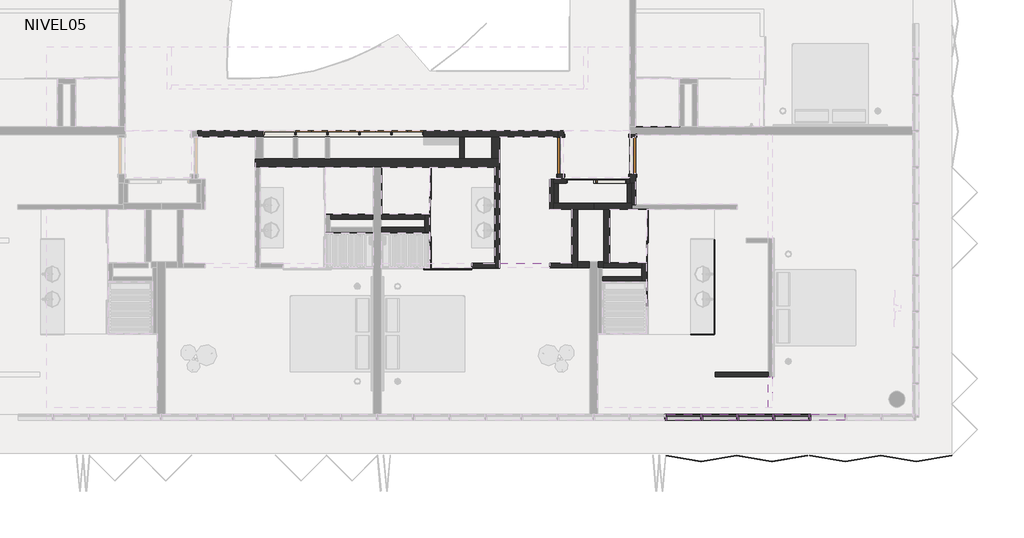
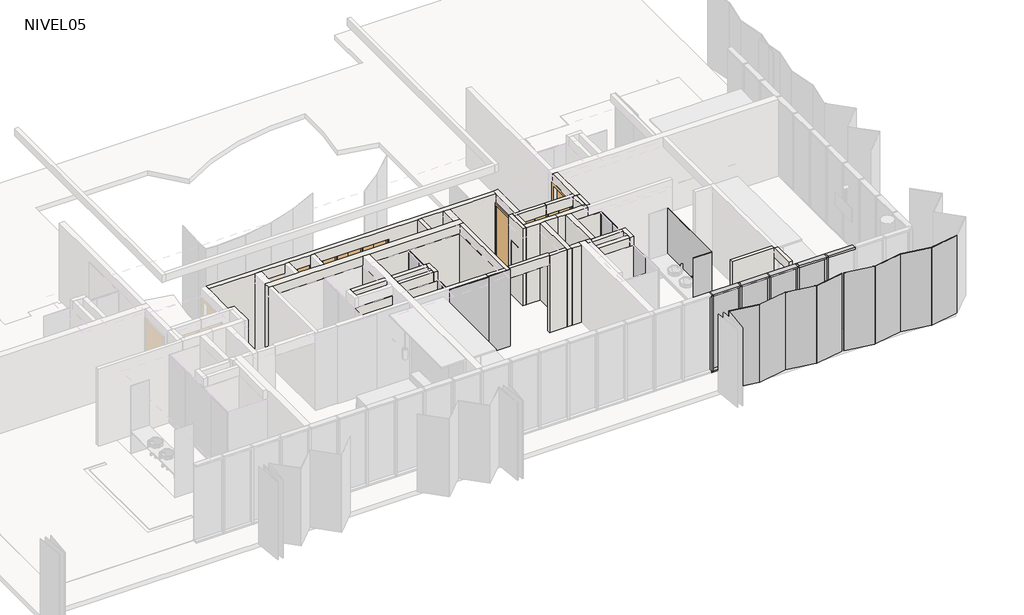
# One storey, part 3 of 8: 44 walls, 14 members, 14 plates, 8 doors.
"""IFC4 building model written with IfcOpenShell, lengths in millimetres."""

from ifc_helpers import new_model, si_unit, frame, origin, place, context, project, spatial, polyline, outline, extrude, faceted_brep, transform, mapped, element, save
from components import m_single_flush_910x_224_a4f79d59, m_single_flush_910x_224_d199ccfa, puerta_closet_shaft_75_x_232cm_9b8c6cb1, puerta_closet_shaft_75_x_232cm_f7ce9964, puerta_closet_shaft_80_x_232cm_003f94e8, rectangular_mullion_50_x_150mm_324a6438, rectangular_mullion_50_x_150mm_33c2bde1, folding_hd_folding_hd_10_b2af082d, panel_corredera_cr_panel_corredera_e3ae9a5b, panel_corredera_cr_panel_corredera_0bc1c699, panel_corredera_cr_panel_corredera_7198288a, panel_corredera_cr_panel_corredera_8db39db7, system_panel_cr_shower_d400fda2, system_panel_cr_shower_91adf229, system_panel_cr_shower_4114597a, system_panel_cr_shower_ad642826, system_panel_cr_shower_33531463, system_panel_glazed_6ccc6dc1

model = new_model("IFC4")

# Units and contexts
model_context = context("Model", 3, world=origin())
ifc_project = project(units=[si_unit("LENGTHUNIT", "METRE", prefix="MILLI")], contexts=[model_context])

# Site, building, storey
site = spatial("IfcSite", under=ifc_project)
building = spatial("IfcBuilding", under=site)
storey = spatial("IfcBuildingStorey", under=building, Name="NIVEL05", Elevation=10660.0)

# Doors
placement = place(None, origin())
m_single_flush_910x_224_shape = m_single_flush_910x_224_a4f79d59(model_context)
element("IfcDoor", 1, ObjectType="M_Single-Flush : 910x 224", at=placement, inside=storey, context=model_context, shape_type="MappedRepresentation", body=[
    mapped(m_single_flush_910x_224_shape, transform((-2608.5934748, -883.5860759, 10660.0), x_axis=(0.0, 1.0, 0.0), y_axis=(-1.0, 0.0, 0.0), z_axis=(0.0, 0.0, 1.0))),
])
m_single_flush_910x_224_2_shape = m_single_flush_910x_224_d199ccfa(model_context)
element("IfcDoor", 2, ObjectType="M_Single-Flush : 910x 224", at=placement, inside=storey, context=model_context, shape_type="MappedRepresentation", body=[
    mapped(m_single_flush_910x_224_2_shape, transform((-798.5934748, -883.5860759, 10660.0), x_axis=(0.0, 1.0, 0.0), y_axis=(-1.0, 0.0, 0.0), z_axis=(0.0, 0.0, 1.0))),
])
puerta_closet_shaft_75_x_232cm_shape = puerta_closet_shaft_75_x_232cm_9b8c6cb1(model_context)
element("IfcDoor", 3, ObjectType="PUERTA CLOSET SHAFT : 75 x 232cm", at=placement, inside=storey, context=model_context, shape_type="MappedRepresentation", body=[
    mapped(puerta_closet_shaft_75_x_232cm_shape, transform((-947.061904, -1521.0860759, 10660.0), x_axis=(1.0, 0.0, 0.0), y_axis=(0.0, 1.0, 0.0), z_axis=(0.0, 0.0, 1.0))),
])
puerta_closet_shaft_75_x_232cm_2_shape = puerta_closet_shaft_75_x_232cm_f7ce9964(model_context)
element("IfcDoor", 4, ObjectType="PUERTA CLOSET SHAFT : 75 x 232cm", at=placement, inside=storey, context=model_context, shape_type="MappedRepresentation", body=[
    mapped(puerta_closet_shaft_75_x_232cm_2_shape, transform((-2480.1250457, -1521.0860759, 10660.0), x_axis=(-1.0, 0.0, 0.0), y_axis=(0.0, -1.0, 0.0), z_axis=(0.0, 0.0, 1.0))),
])
puerta_closet_shaft_80_x_232cm_shape = puerta_closet_shaft_80_x_232cm_003f94e8(model_context)
element("IfcDoor", 5, ObjectType="PUERTA CLOSET SHAFT : 80 x 232cm", at=placement, inside=storey, context=model_context, shape_type="MappedRepresentation", body=[
    mapped(puerta_closet_shaft_80_x_232cm_shape, transform((-6892.061904, -341.0860759, 10660.0), x_axis=(1.0, 0.0, 0.0), y_axis=(0.0, 1.0, 0.0), z_axis=(0.0, 0.0, 1.0))),
])
element("IfcDoor", 6, ObjectType="PUERTA CLOSET SHAFT : 80 x 232cm", at=placement, inside=storey, context=model_context, shape_type="MappedRepresentation", body=[
    mapped(puerta_closet_shaft_80_x_232cm_shape, transform((-7692.061904, -341.0860759, 10660.0), x_axis=(1.0, 0.0, 0.0), y_axis=(0.0, 1.0, 0.0), z_axis=(0.0, 0.0, 1.0))),
])
element("IfcDoor", 7, ObjectType="PUERTA CLOSET SHAFT : 80 x 232cm", at=placement, inside=storey, context=model_context, shape_type="MappedRepresentation", body=[
    mapped(puerta_closet_shaft_80_x_232cm_shape, transform((-6092.061904, -341.0860759, 10660.0), x_axis=(1.0, 0.0, 0.0), y_axis=(0.0, 1.0, 0.0), z_axis=(0.0, 0.0, 1.0))),
])
element("IfcDoor", 8, ObjectType="PUERTA CLOSET SHAFT : 80 x 232cm", at=placement, inside=storey, context=model_context, shape_type="MappedRepresentation", body=[
    mapped(puerta_closet_shaft_80_x_232cm_shape, transform((-5292.061904, -341.0860759, 10660.0), x_axis=(1.0, 0.0, 0.0), y_axis=(0.0, 1.0, 0.0), z_axis=(0.0, 0.0, 1.0))),
])

# Members
rectangular_mullion_50_x_150mm_shape = rectangular_mullion_50_x_150mm_324a6438(model_context)
element("IfcMember", 9, ObjectType="Rectangular Mullion : 50 x 150mm", at=placement, inside=storey, context=model_context, shape_type="MappedRepresentation", body=[
    mapped(rectangular_mullion_50_x_150mm_shape, transform((1841.4065252, -7416.0860759, 13210.0), x_axis=(0.0, 0.0, 1.0), y_axis=(0.0, 1.0, 0.0), z_axis=(-1.0, 0.0, 0.0))),
])
element("IfcMember", 10, ObjectType="Rectangular Mullion : 50 x 150mm", at=placement, inside=storey, context=model_context, shape_type="MappedRepresentation", body=[
    mapped(rectangular_mullion_50_x_150mm_shape, transform((941.4065252, -7416.0860759, 13210.0), x_axis=(0.0, 0.0, 1.0), y_axis=(0.0, 1.0, 0.0), z_axis=(-1.0, 0.0, 0.0))),
])
element("IfcMember", 11, ObjectType="Rectangular Mullion : 50 x 150mm", at=placement, inside=storey, context=model_context, shape_type="MappedRepresentation", body=[
    mapped(rectangular_mullion_50_x_150mm_shape, transform((41.4065252, -7416.0860759, 13210.0), x_axis=(0.0, 0.0, 1.0), y_axis=(0.0, 1.0, 0.0), z_axis=(-1.0, 0.0, 0.0))),
])
element("IfcMember", 12, ObjectType="Rectangular Mullion : 50 x 150mm", at=placement, inside=storey, context=model_context, shape_type="MappedRepresentation", body=[
    mapped(rectangular_mullion_50_x_150mm_shape, transform((3641.4065252, -7416.0860759, 13210.0), x_axis=(0.0, 0.0, 1.0), y_axis=(0.0, 1.0, 0.0), z_axis=(-1.0, 0.0, 0.0))),
])
element("IfcMember", 13, ObjectType="Rectangular Mullion : 50 x 150mm", at=placement, inside=storey, context=model_context, shape_type="MappedRepresentation", body=[
    mapped(rectangular_mullion_50_x_150mm_shape, transform((2741.4065252, -7416.0860759, 13210.0), x_axis=(0.0, 0.0, 1.0), y_axis=(0.0, 1.0, 0.0), z_axis=(-1.0, 0.0, 0.0))),
])
element("IfcMember", 14, ObjectType="Rectangular Mullion : 50 x 150mm", at=placement, inside=storey, context=model_context, shape_type="MappedRepresentation", body=[
    mapped(rectangular_mullion_50_x_150mm_shape, transform((1791.4065252, -7416.0860759, 10640.0), x_axis=(0.0, 0.0, -1.0), y_axis=(0.0, 1.0, 0.0), z_axis=(1.0, 0.0, 0.0))),
])
element("IfcMember", 15, ObjectType="Rectangular Mullion : 50 x 150mm", at=placement, inside=storey, context=model_context, shape_type="MappedRepresentation", body=[
    mapped(rectangular_mullion_50_x_150mm_shape, transform((891.4065252, -7416.0860759, 10640.0), x_axis=(0.0, 0.0, -1.0), y_axis=(0.0, 1.0, 0.0), z_axis=(1.0, 0.0, 0.0))),
])
element("IfcMember", 16, ObjectType="Rectangular Mullion : 50 x 150mm", at=placement, inside=storey, context=model_context, shape_type="MappedRepresentation", body=[
    mapped(rectangular_mullion_50_x_150mm_shape, transform((3591.4065252, -7416.0860759, 10640.0), x_axis=(0.0, 0.0, -1.0), y_axis=(0.0, 1.0, 0.0), z_axis=(1.0, 0.0, 0.0))),
])
element("IfcMember", 17, ObjectType="Rectangular Mullion : 50 x 150mm", at=placement, inside=storey, context=model_context, shape_type="MappedRepresentation", body=[
    mapped(rectangular_mullion_50_x_150mm_shape, transform((2691.4065252, -7416.0860759, 10640.0), x_axis=(0.0, 0.0, -1.0), y_axis=(0.0, 1.0, 0.0), z_axis=(1.0, 0.0, 0.0))),
])
rectangular_mullion_50_x_150mm_2_shape = rectangular_mullion_50_x_150mm_33c2bde1(model_context)
element("IfcMember", 18, ObjectType="Rectangular Mullion : 50 x 150mm", at=placement, inside=storey, context=model_context, shape_type="MappedRepresentation", body=[
    mapped(rectangular_mullion_50_x_150mm_2_shape, transform((1816.4065252, -7416.0860759, 10640.0), x_axis=(-1.0, 0.0, 0.0), y_axis=(0.0, 1.0, 0.0), z_axis=(0.0, 0.0, -1.0))),
])
element("IfcMember", 19, ObjectType="Rectangular Mullion : 50 x 150mm", at=placement, inside=storey, context=model_context, shape_type="MappedRepresentation", body=[
    mapped(rectangular_mullion_50_x_150mm_2_shape, transform((916.4065252, -7416.0860759, 10640.0), x_axis=(-1.0, 0.0, 0.0), y_axis=(0.0, 1.0, 0.0), z_axis=(0.0, 0.0, -1.0))),
])
element("IfcMember", 20, ObjectType="Rectangular Mullion : 50 x 150mm", at=placement, inside=storey, context=model_context, shape_type="MappedRepresentation", body=[
    mapped(rectangular_mullion_50_x_150mm_2_shape, transform((16.4065252, -7416.0860759, 10640.0), x_axis=(-1.0, 0.0, 0.0), y_axis=(0.0, 1.0, 0.0), z_axis=(0.0, 0.0, -1.0))),
])
element("IfcMember", 21, ObjectType="Rectangular Mullion : 50 x 150mm", at=placement, inside=storey, context=model_context, shape_type="MappedRepresentation", body=[
    mapped(rectangular_mullion_50_x_150mm_2_shape, transform((2716.4065252, -7416.0860759, 10640.0), x_axis=(-1.0, 0.0, 0.0), y_axis=(0.0, 1.0, 0.0), z_axis=(0.0, 0.0, -1.0))),
])
element("IfcMember", 22, ObjectType="Rectangular Mullion : 50 x 150mm", at=placement, inside=storey, context=model_context, shape_type="MappedRepresentation", body=[
    mapped(rectangular_mullion_50_x_150mm_2_shape, transform((3616.4065252, -7416.0860759, 10640.0), x_axis=(-1.0, 0.0, 0.0), y_axis=(0.0, 1.0, 0.0), z_axis=(0.0, 0.0, -1.0))),
])

# Plates
folding_hd_folding_hd_10_shape = folding_hd_folding_hd_10_b2af082d(model_context)
element("IfcPlate", 23, ObjectType="FOLDING HD : FOLDING HD 10", at=placement, inside=storey, context=model_context, shape_type="MappedRepresentation", body=[
    mapped(folding_hd_folding_hd_10_shape, transform((3591.4065252, -8366.0860759, 10640.0), x_axis=(-1.0, 0.0, 0.0), y_axis=(0.0, -1.0, 0.0), z_axis=(0.0, 0.0, 1.0))),
])
panel_corredera_cr_panel_corredera_shape = panel_corredera_cr_panel_corredera_e3ae9a5b(model_context)
element("IfcPlate", 24, ObjectType="PANEL CORREDERA : CR_PANEL CORREDERA", at=placement, inside=storey, context=model_context, shape_type="MappedRepresentation", body=[
    mapped(panel_corredera_cr_panel_corredera_shape, transform((-453.5434748, -2560.8259695, 10660.0), x_axis=(0.0, -1.0, 0.0), y_axis=(1.0, 0.0, 0.0), z_axis=(0.0, 0.0, 1.0))),
])
panel_corredera_cr_panel_corredera_2_shape = panel_corredera_cr_panel_corredera_0bc1c699(model_context)
element("IfcPlate", 25, ObjectType="PANEL CORREDERA : CR_PANEL CORREDERA", at=placement, inside=storey, context=model_context, shape_type="MappedRepresentation", body=[
    mapped(panel_corredera_cr_panel_corredera_2_shape, transform((-5883.5921504, -3371.0862189, 10660.0), x_axis=(0.0, 1.0, 0.0), y_axis=(-1.0, 0.0, 0.0), z_axis=(0.0, 0.0, 1.0))),
])
panel_corredera_cr_panel_corredera_3_shape = panel_corredera_cr_panel_corredera_7198288a(model_context)
element("IfcPlate", 26, ObjectType="PANEL CORREDERA : CR_PANEL CORREDERA", at=placement, inside=storey, context=model_context, shape_type="MappedRepresentation", body=[
    mapped(panel_corredera_cr_panel_corredera_3_shape, transform((-5883.5921504, -1491.0860759, 10660.0), x_axis=(0.0, -1.0, 0.0), y_axis=(1.0, 0.0, 0.0), z_axis=(0.0, 0.0, 1.0))),
])
panel_corredera_cr_panel_corredera_4_shape = panel_corredera_cr_panel_corredera_8db39db7(model_context)
element("IfcPlate", 27, ObjectType="PANEL CORREDERA : CR_PANEL CORREDERA", at=placement, inside=storey, context=model_context, shape_type="MappedRepresentation", body=[
    mapped(panel_corredera_cr_panel_corredera_4_shape, transform((-5353.5934748, -3686.0862189, 10660.0), x_axis=(-1.0, 0.0, 0.0), y_axis=(0.0, -1.0, 0.0), z_axis=(0.0, 0.0, 1.0))),
])
system_panel_cr_shower_shape = system_panel_cr_shower_d400fda2(model_context)
element("IfcPlate", 28, ObjectType="System Panel : CR-SHOWER", at=placement, inside=storey, context=model_context, shape_type="MappedRepresentation", body=[
    mapped(system_panel_cr_shower_shape, transform((-4478.5934748, -3686.0862189, 10660.0), x_axis=(1.0, 0.0, 0.0), y_axis=(0.0, 1.0, 0.0), z_axis=(0.0, 0.0, 1.0))),
])
system_panel_cr_shower_2_shape = system_panel_cr_shower_91adf229(model_context)
element("IfcPlate", 29, ObjectType="System Panel : CR-SHOWER", at=placement, inside=storey, context=model_context, shape_type="MappedRepresentation", body=[
    mapped(system_panel_cr_shower_2_shape, transform((1226.4065252, -4164.8462541, 10660.0), x_axis=(0.0, 1.0, 0.0), y_axis=(-1.0, 0.0, 0.0), z_axis=(0.0, 0.0, 1.0))),
])
system_panel_cr_shower_3_shape = system_panel_cr_shower_4114597a(model_context)
element("IfcPlate", 30, ObjectType="System Panel : CR-SHOWER", at=placement, inside=storey, context=model_context, shape_type="MappedRepresentation", body=[
    mapped(system_panel_cr_shower_3_shape, transform((936.4065252, -5348.5862189, 10660.0), x_axis=(1.0, 0.0, 0.0), y_axis=(0.0, 1.0, 0.0), z_axis=(0.0, 0.0, 1.0))),
])
system_panel_cr_shower_4_shape = system_panel_cr_shower_ad642826(model_context)
element("IfcPlate", 31, ObjectType="System Panel : CR-SHOWER", at=placement, inside=storey, context=model_context, shape_type="MappedRepresentation", body=[
    mapped(system_panel_cr_shower_4_shape, transform((-453.5434748, -3776.2845441, 10660.0), x_axis=(0.0, 1.0, 0.0), y_axis=(-1.0, 0.0, 0.0), z_axis=(0.0, 0.0, 1.0))),
])
system_panel_cr_shower_5_shape = system_panel_cr_shower_33531463(model_context)
element("IfcPlate", 32, ObjectType="System Panel : CR-SHOWER", at=placement, inside=storey, context=model_context, shape_type="MappedRepresentation", body=[
    mapped(system_panel_cr_shower_5_shape, transform((-5883.5921504, -2436.0861474, 10660.0), x_axis=(0.0, 1.0, 0.0), y_axis=(-1.0, 0.0, 0.0), z_axis=(0.0, 0.0, 1.0))),
])
system_panel_glazed_shape = system_panel_glazed_6ccc6dc1(model_context)
element("IfcPlate", 33, ObjectType="System Panel : Glazed", at=placement, inside=storey, context=model_context, shape_type="MappedRepresentation", body=[
    mapped(system_panel_glazed_shape, transform((1366.4065252, -7416.0860759, 10690.0), x_axis=(-1.0, 0.0, 0.0), y_axis=(0.0, -1.0, 0.0), z_axis=(0.0, 0.0, 1.0))),
])
element("IfcPlate", 34, ObjectType="System Panel : Glazed", at=placement, inside=storey, context=model_context, shape_type="MappedRepresentation", body=[
    mapped(system_panel_glazed_shape, transform((466.4065252, -7416.0860759, 10690.0), x_axis=(-1.0, 0.0, 0.0), y_axis=(0.0, -1.0, 0.0), z_axis=(0.0, 0.0, 1.0))),
])
element("IfcPlate", 35, ObjectType="System Panel : Glazed", at=placement, inside=storey, context=model_context, shape_type="MappedRepresentation", body=[
    mapped(system_panel_glazed_shape, transform((2266.4065252, -7416.0860759, 10690.0), x_axis=(-1.0, 0.0, 0.0), y_axis=(0.0, -1.0, 0.0), z_axis=(0.0, 0.0, 1.0))),
])
element("IfcPlate", 36, ObjectType="System Panel : Glazed", at=placement, inside=storey, context=model_context, shape_type="MappedRepresentation", body=[
    mapped(system_panel_glazed_shape, transform((3166.4065252, -7416.0860759, 10690.0), x_axis=(-1.0, 0.0, 0.0), y_axis=(0.0, -1.0, 0.0), z_axis=(0.0, 0.0, 1.0))),
])

# Walls
element("IfcWall", 37, ObjectType="SCV.TI.A.110.090.143.47.1", at=placement, inside=storey, context=model_context, shape_type="SweptSolid", body=[
    extrude(outline(polyline([(-2333.5934748, -3681.0862189), (-2883.5934748, -3681.0862189), (-2883.5934748, -3571.0862189), (-2333.5934748, -3571.0862189), (-2333.5934748, -3681.0862189)])), frame((0.0, 0.0, 10660.0), z_axis=(0.0, 0.0, 1.0), x_axis=(1.0, 0.0, 0.0)), (0.0, 0.0, 1.0), 2550.0),
])
element("IfcWall", 38, ObjectType="SCV.TI.A.110.090.143.47.1", at=placement, inside=storey, context=model_context, shape_type="Brep", body=[
    faceted_brep([(-1778.029983, -1576.0860759, 13210.0), (-2773.5934748, -1576.0860759, 13210.0), (-2773.5934748, -1576.0860759, 10660.0), (-2463.5934748, -1576.0860759, 10660.0), (-2463.5934748, -1576.0860759, 12900.0), (-1778.029983, -1576.0860759, 12900.0), (-2773.5934748, -1466.0860759, 13210.0), (-2683.5934748, -1466.0860759, 13210.0), (-2533.5934748, -1466.0860759, 13210.0), (-1778.029983, -1466.0860759, 13210.0), (-1778.029983, -1466.0860759, 12900.0), (-2463.5934748, -1466.0860759, 12900.0), (-2463.5934748, -1466.0860759, 10660.0), (-2533.5934748, -1466.0860759, 10660.0), (-2683.5934748, -1466.0860759, 10660.0), (-2773.5934748, -1466.0860759, 10660.0)], [[[0, 1, 2, 3, 4, 5]], [[6, 7, 8, 9, 10, 11, 12, 13, 14, 15]], [[2, 15, 14, 13, 12, 3]], [[9, 0, 5, 10]], [[1, 0, 9, 8, 7, 6]], [[4, 11, 10, 5]], [[11, 4, 3, 12]], [[2, 1, 6, 15]]]),
])
element("IfcWall", 39, ObjectType="SCV.TI.A.150.120.212.47.1", at=placement, inside=storey, context=model_context, shape_type="Brep", body=[
    faceted_brep([(-2683.5934748, -1466.0860759, 13210.0), (-2683.5934748, -416.0860759, 13210.0), (-2683.5934748, -266.0860759, 13210.0), (-2683.5934748, -266.0860759, 10660.0), (-2683.5934748, -426.0860759, 10660.0), (-2683.5934748, -426.0860759, 12860.0), (-2683.5934748, -1341.0860759, 12860.0), (-2683.5934748, -1341.0860759, 10660.0), (-2683.5934748, -1466.0860759, 10660.0), (-2533.5934748, -266.0860759, 13210.0), (-2533.5934748, -1466.0860759, 13210.0), (-2533.5934748, -1466.0860759, 10660.0), (-2533.5934748, -1341.0860759, 10660.0), (-2533.5934748, -1341.0860759, 12860.0), (-2533.5934748, -426.0860759, 12860.0), (-2533.5934748, -426.0860759, 10660.0), (-2533.5934748, -266.0860759, 10660.0)], [[[0, 1, 2, 3, 4, 5, 6, 7, 8]], [[9, 10, 11, 12, 13, 14, 15, 16]], [[3, 16, 15, 4]], [[11, 8, 7, 12]], [[2, 1, 0, 10, 9]], [[5, 14, 13, 6]], [[6, 13, 12, 7]], [[14, 5, 4, 15]], [[3, 2, 9, 16]], [[0, 8, 11, 10]]]),
])
element("IfcWall", 40, ObjectType="SCV.TI.A.110.090.143.47.1", at=placement, inside=storey, context=model_context, shape_type="Brep", body=[
    faceted_brep([(-4243.5934748, -1166.0860759, 10640.0), (-4243.5934748, -3686.0862189, 10640.0), (-4243.5934748, -3686.0862189, 10660.0), (-4243.5934748, -3686.0862189, 13210.0), (-4243.5934748, -3576.0862189, 13210.0), (-4243.5934748, -1166.0860759, 13210.0), (-4133.5934748, -1166.0860759, 10640.0), (-4133.5934748, -1166.0860759, 13210.0), (-4133.5934748, -3686.0862189, 13210.0), (-4133.5934748, -3686.0862189, 12910.0), (-4133.5934748, -3686.0862189, 10640.0)], [[[0, 1, 2, 3, 4, 5]], [[6, 7, 8, 9, 10]], [[1, 0, 6, 10]], [[5, 4, 3, 8, 7]], [[1, 10, 9, 8, 3, 2]], [[0, 5, 7, 6]]]),
])
element("IfcWall", 41, ObjectType="SCV.TI.A.150.120.212.47.1", at=placement, inside=storey, context=model_context, shape_type="Brep", body=[
    faceted_brep([(-11683.5934748, -416.0860759, 10640.0), (-10233.5934748, -416.0860759, 10640.0), (-10033.5934748, -416.0860759, 10640.0), (-9283.5934748, -416.0860759, 10640.0), (-9173.5934748, -416.0860759, 10640.0), (-8483.5934748, -416.0860759, 10640.0), (-8373.5934748, -416.0860759, 10640.0), (-5133.5934748, -416.0860759, 10640.0), (-5013.5934748, -416.0860759, 10640.0), (-4333.5934748, -416.0860759, 10640.0), (-4133.5934748, -416.0860759, 10640.0), (-2683.5934748, -416.0860759, 10640.0), (-2683.5934748, -416.0860759, 13210.0), (-4133.5934748, -416.0860759, 13210.0), (-4333.5934748, -416.0860759, 13210.0), (-5013.5934748, -416.0860759, 13210.0), (-5133.5934748, -416.0860759, 13210.0), (-8373.5934748, -416.0860759, 13210.0), (-8483.5934748, -416.0860759, 13210.0), (-9173.5934748, -416.0860759, 13210.0), (-9283.5934748, -416.0860759, 13210.0), (-10033.5934748, -416.0860759, 13210.0), (-10233.5934748, -416.0860759, 13210.0), (-11683.5934748, -416.0860759, 13210.0), (-6033.5934748, -416.0860759, 10660.0), (-10033.5934748, -416.0860759, 10660.0), (-10033.5934748, -416.0860759, 12880.0), (-6033.5934748, -416.0860759, 12880.0), (-2683.5934748, -266.0860759, 10640.0), (-11683.5934748, -266.0860759, 10640.0), (-11683.5934748, -266.0860759, 10660.0), (-11683.5934748, -266.0860759, 13210.0), (-2683.5934748, -266.0860759, 13210.0), (-2683.5934748, -266.0860759, 10660.0), (-6033.5934748, -266.0860759, 12880.0), (-10033.5934748, -266.0860759, 12880.0), (-10033.5934748, -266.0860759, 10660.0), (-6033.5934748, -266.0860759, 10660.0)], [[[0, 1, 2, 3, 4, 5, 6, 7, 8, 9, 10, 11, 12, 13, 14, 15, 16, 17, 18, 19, 20, 21, 22, 23], [24, 25, 26, 27]], [[28, 29, 30, 31, 32, 33], [34, 35, 36, 37]], [[11, 10, 9, 8, 7, 6, 5, 4, 3, 2, 1, 0, 29, 28]], [[23, 22, 21, 20, 19, 18, 17, 16, 15, 14, 13, 12, 32, 31]], [[26, 35, 34, 27]], [[36, 25, 24, 37]], [[25, 36, 35, 26]], [[37, 24, 27, 34]], [[12, 11, 28, 33, 32]], [[0, 23, 31, 30, 29]]]),
])
element("IfcWall", 42, ObjectType="SCV.TI.A.150.120.212.47.1", at=placement, inside=storey, context=model_context, shape_type="Brep", body=[
    faceted_brep([(-2773.5934748, -2216.0860759, 10660.0), (-2333.5934748, -2216.0860759, 10660.0), (-2183.5934748, -2216.0860759, 10660.0), (-1783.5934748, -2216.0860759, 10660.0), (-1783.5934748, -2216.0860759, 13210.0), (-2183.5934748, -2216.0860759, 13210.0), (-2333.5934748, -2216.0860759, 13210.0), (-2773.5934748, -2216.0860759, 13210.0), (-2773.5934748, -2066.0860759, 10660.0), (-2773.5934748, -2066.0860759, 13210.0), (-1783.5934748, -2066.0860759, 13210.0), (-1783.5934748, -2066.0860759, 10660.0)], [[[0, 1, 2, 3, 4, 5, 6, 7]], [[8, 9, 10, 11]], [[3, 2, 1, 0, 8, 11]], [[4, 3, 11, 10]], [[7, 6, 5, 4, 10, 9]], [[0, 7, 9, 8]]]),
])
element("IfcWall", 43, ObjectType="SCV.TI.A.110.090.143.47.1", at=placement, inside=storey, context=model_context, shape_type="Brep", body=[
    faceted_brep([(-2883.5934748, -1466.0860759, 10640.0), (-2883.5934748, -2216.0860759, 10640.0), (-2883.5934748, -2216.0860759, 13210.0), (-2883.5934748, -1466.0860759, 13210.0), (-2773.5934748, -1466.0860759, 10640.0), (-2773.5934748, -1466.0860759, 10660.0), (-2773.5934748, -1466.0860759, 13210.0), (-2773.5934748, -1576.0860759, 13210.0), (-2773.5934748, -2066.0860759, 13210.0), (-2773.5934748, -2216.0860759, 13210.0), (-2773.5934748, -2216.0860759, 10660.0), (-2773.5934748, -2216.0860759, 10640.0)], [[[0, 1, 2, 3]], [[4, 5, 6, 7, 8, 9, 10, 11]], [[1, 0, 4, 11]], [[3, 2, 9, 8, 7, 6]], [[2, 1, 11, 10, 9]], [[0, 3, 6, 5, 4]]]),
])
element("IfcWall", 44, ObjectType="SCV.TI.A.120.120.122.46.2", at=placement, inside=storey, context=model_context, shape_type="SweptSolid", body=[
    extrude(outline(polyline([(-6003.6822103, -2796.0860759), (-7083.5934748, -2796.0860759), (-7083.5934748, -2676.0860759), (-6003.6822103, -2676.0860759), (-6003.6822103, -2796.0860759)])), frame((0.0, 0.0, 10660.0), z_axis=(0.0, 0.0, 1.0), x_axis=(1.0, 0.0, 0.0)), (0.0, 0.0, 1.0), 2550.0),
])
element("IfcWall", 45, ObjectType="SCV.TI.A.120.120.122.46.2", at=placement, inside=storey, context=model_context, shape_type="Brep", body=[
    faceted_brep([(-5883.6822103, -2796.0860759, 10660.0), (-5883.6822103, -2356.0860759, 10660.0), (-5883.6822103, -2356.0860759, 13210.0), (-5883.6822103, -2796.0860759, 13210.0), (-6003.6822103, -2796.0860759, 10660.0), (-6003.6822103, -2796.0860759, 13210.0), (-6003.6822103, -2676.0860759, 13210.0), (-6003.6822103, -2476.0860759, 13210.0), (-6003.6822103, -2356.0860759, 13210.0), (-6003.6822103, -2356.0860759, 10660.0), (-6003.6822103, -2476.0860759, 10660.0), (-6003.6822103, -2676.0860759, 10660.0)], [[[0, 1, 2, 3]], [[4, 5, 6, 7, 8, 9, 10, 11]], [[1, 0, 4, 11, 10, 9]], [[3, 2, 8, 7, 6, 5]], [[2, 1, 9, 8]], [[0, 3, 5, 4]]]),
])
element("IfcWall", 46, ObjectType="SCV.TI.A.120.120.122.46.2", at=placement, inside=storey, context=model_context, shape_type="SweptSolid", body=[
    extrude(outline(polyline([(-7083.5934748, -2356.0860759), (-6003.6822103, -2356.0860759), (-6003.6822103, -2476.0860759), (-7083.5934748, -2476.0860759), (-7083.5934748, -2356.0860759)])), frame((0.0, 0.0, 10660.0), z_axis=(0.0, 0.0, 1.0), x_axis=(1.0, 0.0, 0.0)), (0.0, 0.0, 1.0), 2550.0),
])
element("IfcWall", 47, ObjectType="SCV.TI.A.110.090.143.47.1", at=placement, inside=storey, context=model_context, shape_type="Brep", body=[
    faceted_brep([(-4823.5934748, -3686.0862189, 10660.0), (-4243.5934748, -3686.0862189, 10660.0), (-4243.5934748, -3686.0862189, 13210.0), (-4823.5934748, -3686.0862189, 13210.0), (-4823.5934748, -3686.0862189, 12910.0), (-4823.5934748, -3576.0862189, 10660.0), (-4823.5934748, -3576.0862189, 13210.0), (-4243.5934748, -3576.0862189, 13210.0), (-4243.5934748, -3576.0862189, 10660.0)], [[[0, 1, 2, 3, 4]], [[5, 6, 7, 8]], [[1, 0, 5, 8]], [[3, 2, 7, 6]], [[0, 4, 3, 6, 5]], [[1, 8, 7, 2]]]),
])
element("IfcWall", 48, ObjectType="REV-PORCELANATO_60*60", at=placement, inside=storey, context=model_context, shape_type="Brep", body=[
    faceted_brep([(-4823.5934748, -3596.0862189, 10660.0), (-4243.5934748, -3596.0862189, 10660.0), (-4243.5934748, -3596.0862189, 12900.0), (-4823.5934748, -3596.0862189, 12900.0), (-4823.5934748, -3586.0862189, 10660.0), (-4823.5934748, -3586.0862189, 12900.0), (-4253.5934748, -3586.0862189, 12900.0), (-4243.5934748, -3586.0862189, 12900.0), (-4243.5934748, -3586.0862189, 10660.0), (-4253.5934748, -3586.0862189, 10660.0)], [[[0, 1, 2, 3]], [[4, 5, 6, 7, 8, 9]], [[1, 0, 4, 9, 8]], [[3, 2, 7, 6, 5]], [[0, 3, 5, 4]], [[2, 1, 8, 7]]]),
])
element("IfcWall", 49, ObjectType="REV-PORCELANATO_60*60", at=placement, inside=storey, context=model_context, shape_type="Brep", body=[
    faceted_brep([(-4243.5934748, -3586.0862189, 10660.0), (-4243.5934748, -1166.0860759, 10660.0), (-4243.5934748, -1166.0860759, 12900.0), (-4243.5934748, -3586.0862189, 12900.0), (-4253.5934748, -3586.0862189, 10660.0), (-4253.5934748, -3586.0862189, 12900.0), (-4253.5934748, -1176.0860759, 12900.0), (-4253.5934748, -1166.0860759, 12900.0), (-4253.5934748, -1166.0860759, 10660.0), (-4253.5934748, -1176.0860759, 10660.0)], [[[0, 1, 2, 3]], [[4, 5, 6, 7, 8, 9]], [[1, 0, 4, 9, 8]], [[3, 2, 7, 6, 5]], [[2, 1, 8, 7]], [[0, 3, 5, 4]]]),
])
element("IfcWall", 50, ObjectType="REV-PORCELANATO_60*60", at=placement, inside=storey, context=model_context, shape_type="Brep", body=[
    faceted_brep([(-4253.5934748, -1166.0860759, 10660.0), (-7083.5934748, -1166.0860759, 10660.0), (-7083.5934748, -1166.0860759, 12900.0), (-4253.5934748, -1166.0860759, 12900.0), (-4253.5934748, -1176.0860759, 10660.0), (-4253.5934748, -1176.0860759, 12900.0), (-7073.5934748, -1176.0860759, 12900.0), (-7083.5934748, -1176.0860759, 12900.0), (-7083.5934748, -1176.0860759, 10660.0), (-7073.5934748, -1176.0860759, 10660.0)], [[[0, 1, 2, 3]], [[4, 5, 6, 7, 8, 9]], [[1, 0, 4, 9, 8]], [[3, 2, 7, 6, 5]], [[2, 1, 8, 7]], [[0, 3, 5, 4]]]),
])
element("IfcWall", 51, ObjectType="REV-PORCELANATO_60*60", at=placement, inside=storey, context=model_context, shape_type="Brep", body=[
    faceted_brep([(-7083.5934748, -1176.0860759, 10660.0), (-7083.5934748, -2356.0860759, 10660.0), (-7083.5934748, -2356.0860759, 12900.0), (-7083.5934748, -1176.0860759, 12900.0), (-7073.5934748, -1176.0860759, 10660.0), (-7073.5934748, -1176.0860759, 12900.0), (-7073.5934748, -2346.0860759, 12900.0), (-7073.5934748, -2356.0860759, 12900.0), (-7073.5934748, -2356.0860759, 10660.0), (-7073.5934748, -2346.0860759, 10660.0)], [[[0, 1, 2, 3]], [[4, 5, 6, 7, 8, 9]], [[1, 0, 4, 9, 8]], [[3, 2, 7, 6, 5]], [[2, 1, 8, 7]], [[0, 3, 5, 4]]]),
])
element("IfcWall", 52, ObjectType="REV-PORCELANATO_60*60", at=placement, inside=storey, context=model_context, shape_type="SweptSolid", body=[
    extrude(outline(polyline([(-5883.5921504, -2356.0860759), (-7073.5934748, -2356.0860759), (-7073.5934748, -2346.0860759), (-5883.5921504, -2346.0860759), (-5883.5921504, -2356.0860759)])), frame((0.0, 0.0, 10660.0), z_axis=(0.0, 0.0, 1.0), x_axis=(1.0, 0.0, 0.0)), (0.0, 0.0, 1.0), 2240.0),
])
element("IfcWall", 53, ObjectType="REV-PORCELANATO_60*60", at=placement, inside=storey, context=model_context, shape_type="Brep", body=[
    faceted_brep([(-5883.5921504, -2796.0860759, 10660.0), (-7083.5934748, -2796.0860759, 10660.0), (-7083.5934748, -2796.0860759, 12900.0), (-5883.5921504, -2796.0860759, 12900.0), (-5883.5921504, -2806.0860759, 10660.0), (-5883.5921504, -2806.0860759, 12900.0), (-7073.5934748, -2806.0860759, 12900.0), (-7083.5934748, -2806.0860759, 12900.0), (-7083.5934748, -2806.0860759, 10660.0), (-7073.5934748, -2806.0860759, 10660.0)], [[[0, 1, 2, 3]], [[4, 5, 6, 7, 8, 9]], [[1, 0, 4, 9, 8]], [[3, 2, 7, 6, 5]], [[0, 3, 5, 4]], [[2, 1, 8, 7]]]),
])
element("IfcWall", 54, ObjectType="SCV.TI.A.120.120.122.46.2", at=placement, inside=storey, context=model_context, shape_type="SweptSolid", body=[
    extrude(outline(polyline([(-7283.5934748, -2476.0860759), (-8363.5047394, -2476.0860759), (-8363.5047394, -2356.0860759), (-7283.5934748, -2356.0860759), (-7283.5934748, -2476.0860759)])), frame((0.0, 0.0, 10660.0), z_axis=(0.0, 0.0, 1.0), x_axis=(1.0, 0.0, 0.0)), (0.0, 0.0, 1.0), 2550.0),
])
element("IfcWall", 55, ObjectType="REV-PORCELANATO_60*60", at=placement, inside=storey, context=model_context, shape_type="Brep", body=[
    faceted_brep([(-7293.5934748, -1176.0860759, 10660.0), (-7293.5934748, -2346.0860759, 10660.0), (-7293.5934748, -2356.0860759, 10660.0), (-7293.5934748, -2356.0860759, 12900.0), (-7293.5934748, -2346.0860759, 12900.0), (-7293.5934748, -1176.0860759, 12900.0), (-7283.5934748, -1176.0860759, 10660.0), (-7283.5934748, -1176.0860759, 12900.0), (-7283.5934748, -2356.0860759, 12900.0), (-7283.5934748, -2356.0860759, 10660.0)], [[[0, 1, 2, 3, 4, 5]], [[6, 7, 8, 9]], [[2, 1, 0, 6, 9]], [[5, 4, 3, 8, 7]], [[3, 2, 9, 8]], [[0, 5, 7, 6]]]),
])
element("IfcWall", 56, ObjectType="REV-PORCELANATO_60*60", at=placement, inside=storey, context=model_context, shape_type="SweptSolid", body=[
    extrude(outline(polyline([(-8483.5947993, -2346.0860759), (-7293.5934748, -2346.0860759), (-7293.5934748, -2356.0860759), (-8483.5947993, -2356.0860759), (-8483.5947993, -2346.0860759)])), frame((0.0, 0.0, 10660.0), z_axis=(0.0, 0.0, 1.0), x_axis=(1.0, 0.0, 0.0)), (0.0, 0.0, 1.0), 2240.0),
])
element("IfcWall", 57, ObjectType="REV-PORCELANATO_60*60", at=placement, inside=storey, context=model_context, shape_type="Brep", body=[
    faceted_brep([(-8483.5947993, -2806.0860759, 10660.0), (-7293.5934748, -2806.0860759, 10660.0), (-7283.5934748, -2806.0860759, 10660.0), (-7283.5934748, -2806.0860759, 12900.0), (-7293.5934748, -2806.0860759, 12900.0), (-8483.5947993, -2806.0860759, 12900.0), (-8483.5947993, -2796.0860759, 10660.0), (-8483.5947993, -2796.0860759, 12900.0), (-7283.5934748, -2796.0860759, 12900.0), (-7283.5934748, -2796.0860759, 10660.0)], [[[0, 1, 2, 3, 4, 5]], [[6, 7, 8, 9]], [[2, 1, 0, 6, 9]], [[5, 4, 3, 8, 7]], [[0, 5, 7, 6]], [[3, 2, 9, 8]]]),
])
element("IfcWall", 58, ObjectType="SCV.TI.A.120.120.122.46.2", at=placement, inside=storey, context=model_context, shape_type="SweptSolid", body=[
    extrude(outline(polyline([(-573.5934748, -4026.0862189), (-1563.5934748, -4026.0862189), (-1563.5934748, -3906.0862189), (-573.5934748, -3906.0862189), (-573.5934748, -4026.0862189)])), frame((0.0, 0.0, 10640.0), z_axis=(0.0, 0.0, 1.0), x_axis=(1.0, 0.0, 0.0)), (0.0, 0.0, 1.0), 2570.0),
])
element("IfcWall", 59, ObjectType="SCV.TI.A.120.120.122.46.2", at=placement, inside=storey, context=model_context, shape_type="Brep", body=[
    faceted_brep([(-453.5934748, -4026.0862189, 10640.0), (-453.5934748, -3566.0862189, 10640.0), (-453.5934748, -3566.0862189, 13210.0), (-453.5934748, -4026.0862189, 13210.0), (-573.5934748, -4026.0862189, 10640.0), (-573.5934748, -4026.0862189, 13210.0), (-573.5934748, -3906.0862189, 13210.0), (-573.5934748, -3686.0862189, 13210.0), (-573.5934748, -3566.0862189, 13210.0), (-573.5934748, -3566.0862189, 10640.0), (-573.5934748, -3686.0862189, 10640.0), (-573.5934748, -3906.0862189, 10640.0)], [[[0, 1, 2, 3]], [[4, 5, 6, 7, 8, 9, 10, 11]], [[1, 0, 4, 11, 10, 9]], [[3, 2, 8, 7, 6, 5]], [[2, 1, 9, 8]], [[0, 3, 5, 4]]]),
])
element("IfcWall", 60, ObjectType="SCV.TI.A.120.120.122.46.2", at=placement, inside=storey, context=model_context, shape_type="Brep", body=[
    faceted_brep([(-573.5934748, -3566.0862189, 10640.0), (-1383.5934748, -3566.0862189, 10640.0), (-1533.5934748, -3566.0862189, 10640.0), (-1533.5934748, -3566.0862189, 13210.0), (-1383.5934748, -3566.0862189, 13210.0), (-573.5934748, -3566.0862189, 13210.0), (-573.5934748, -3686.0862189, 10640.0), (-573.5934748, -3686.0862189, 13210.0), (-1533.5934748, -3686.0862189, 13210.0), (-1533.5934748, -3686.0862189, 10640.0)], [[[0, 1, 2, 3, 4, 5]], [[6, 7, 8, 9]], [[2, 1, 0, 6, 9]], [[5, 4, 3, 8, 7]], [[0, 5, 7, 6]], [[3, 2, 9, 8]]]),
])
element("IfcWall", 61, ObjectType="SCV.TI.A.110.090.143.47.1", at=placement, inside=storey, context=model_context, shape_type="Brep", body=[
    faceted_brep([(-873.5934748, -1466.0860759, 10640.0), (-1778.029983, -1466.0860759, 10640.0), (-1778.029983, -1466.0860759, 10660.0), (-963.5934748, -1466.0860759, 10660.0), (-963.5934748, -1466.0860759, 12900.0), (-1778.029983, -1466.0860759, 12900.0), (-1778.029983, -1466.0860759, 13210.0), (-873.5934748, -1466.0860759, 13210.0), (-1778.029983, -1576.0860759, 10640.0), (-943.5934748, -1576.0860759, 10640.0), (-873.5934748, -1576.0860759, 10640.0), (-873.5934748, -1576.0860759, 13210.0), (-943.5934748, -1576.0860759, 13210.0), (-1778.029983, -1576.0860759, 13210.0), (-1778.029983, -1576.0860759, 12900.0), (-963.5934748, -1576.0860759, 12900.0), (-963.5934748, -1576.0860759, 10660.0), (-1778.029983, -1576.0860759, 10660.0)], [[[0, 1, 2, 3, 4, 5, 6, 7]], [[8, 9, 10, 11, 12, 13, 14, 15, 16, 17]], [[1, 0, 10, 9, 8]], [[1, 8, 17, 2]], [[13, 6, 5, 14]], [[7, 6, 13, 12, 11]], [[4, 15, 14, 5]], [[16, 3, 2, 17]], [[3, 16, 15, 4]], [[0, 7, 11, 10]]]),
])
element("IfcWall", 62, ObjectType="SCV.TI.A.150.120.212.47.1", at=placement, inside=storey, context=model_context, shape_type="Brep", body=[
    faceted_brep([(-873.5934748, -366.0860759, 10640.0), (-873.5934748, -1466.0860759, 10640.0), (-873.5934748, -1576.0860759, 10640.0), (-873.5934748, -1576.0860759, 13210.0), (-873.5934748, -1466.0860759, 13210.0), (-873.5934748, -366.0860759, 13210.0), (-873.5934748, -1341.0860759, 10660.0), (-873.5934748, -426.0860759, 10660.0), (-873.5934748, -426.0860759, 12860.0), (-873.5934748, -1341.0860759, 12860.0), (-723.5934748, -1576.0860759, 10640.0), (-723.5934748, -366.0860759, 10640.0), (-723.5934748, -366.0860759, 13210.0), (-723.5934748, -1576.0860759, 13210.0), (-723.5934748, -426.0860759, 10660.0), (-723.5934748, -1341.0860759, 10660.0), (-723.5934748, -1341.0860759, 12860.0), (-723.5934748, -426.0860759, 12860.0), (-833.5934748, -1576.0860759, 10640.0), (-833.5934748, -1576.0860759, 13210.0)], [[[0, 1, 2, 3, 4, 5], [6, 7, 8, 9]], [[10, 11, 12, 13], [14, 15, 16, 17]], [[2, 1, 0, 11, 10, 18]], [[5, 4, 3, 19, 13, 12]], [[6, 15, 14, 7]], [[8, 17, 16, 9]], [[15, 6, 9, 16]], [[17, 8, 7, 14]], [[3, 2, 18, 10, 13, 19]], [[0, 5, 12, 11]]]),
])
element("IfcWall", 63, ObjectType="SCV.TI.A.150.120.212.47.1", at=placement, inside=storey, context=model_context, shape_type="Brep", body=[
    faceted_brep([(-833.5934748, -2066.0860759, 10640.0), (-1783.5934748, -2066.0860759, 10640.0), (-1783.5934748, -2066.0860759, 13210.0), (-833.5934748, -2066.0860759, 13210.0), (-833.5934748, -2216.0860759, 10640.0), (-833.5934748, -2216.0860759, 13210.0), (-1383.5934748, -2216.0860759, 13210.0), (-1533.5934748, -2216.0860759, 13210.0), (-1783.5934748, -2216.0860759, 13210.0), (-1783.5934748, -2216.0860759, 10640.0), (-1533.5934748, -2216.0860759, 10640.0), (-1383.5934748, -2216.0860759, 10640.0), (-833.5934748, -2106.0860759, 10640.0), (-833.5934748, -2106.0860759, 13210.0)], [[[0, 1, 2, 3]], [[4, 5, 6, 7, 8, 9, 10, 11]], [[1, 0, 12, 4, 11, 10, 9]], [[2, 1, 9, 8]], [[3, 2, 8, 7, 6, 5, 13]], [[0, 3, 13, 5, 4, 12]]]),
])
element("IfcWall", 64, ObjectType="SCV.TI.A.110.090.143.47.1", at=placement, inside=storey, context=model_context, shape_type="SweptSolid", body=[
    extrude(outline(polyline([(2576.4065252, -6411.0658633), (1257.7462079, -6411.0658633), (1257.7462079, -6301.0658633), (2576.4065252, -6301.0658633), (2576.4065252, -6411.0658633)])), frame((0.0, 0.0, 10640.0), z_axis=(0.0, 0.0, 1.0), x_axis=(1.0, 0.0, 0.0)), (0.0, 0.0, 1.0), 2570.0),
])
element("IfcWall", 65, ObjectType="REV-PORCELANATO_60*60", at=placement, inside=storey, context=model_context, shape_type="Brep", body=[
    faceted_brep([(-453.5434748, -3556.0862189, 10660.0), (-1373.5934748, -3556.0862189, 10660.0), (-1383.5934748, -3556.0862189, 10660.0), (-1383.5934748, -3556.0862189, 12920.0), (-1373.5934748, -3556.0862189, 12920.0), (-453.5434748, -3556.0862189, 12920.0), (-453.5434748, -3566.0862189, 10660.0), (-453.5434748, -3566.0862189, 12920.0), (-1383.5934748, -3566.0862189, 12920.0), (-1383.5934748, -3566.0862189, 10660.0)], [[[0, 1, 2, 3, 4, 5]], [[6, 7, 8, 9]], [[2, 1, 0, 6, 9]], [[5, 4, 3, 8, 7]], [[0, 5, 7, 6]], [[3, 2, 9, 8]]]),
])
element("IfcWall", 66, ObjectType="REV-PORCELANATO_60*60", at=placement, inside=storey, context=model_context, shape_type="SweptSolid", body=[
    extrude(outline(polyline([(-453.5434748, -2226.0860759), (-1373.5934748, -2226.0860759), (-1373.5934748, -2216.0860759), (-453.5434748, -2216.0860759), (-453.5434748, -2226.0860759)])), frame((0.0, 0.0, 10660.0), z_axis=(0.0, 0.0, 1.0), x_axis=(1.0, 0.0, 0.0)), (0.0, 0.0, 1.0), 2260.0),
])
element("IfcWall", 67, ObjectType="REV-PORCELANATO_60*60", at=placement, inside=storey, context=model_context, shape_type="Brep", body=[
    faceted_brep([(-1373.5934748, -3556.0862189, 10660.0), (-1373.5934748, -2226.0860759, 10660.0), (-1373.5934748, -2216.0860759, 10660.0), (-1373.5934748, -2216.0860759, 12920.0), (-1373.5934748, -2226.0860759, 12920.0), (-1373.5934748, -3556.0862189, 12920.0), (-1383.5934748, -3556.0862189, 10660.0), (-1383.5934748, -3556.0862189, 12920.0), (-1383.5934748, -2216.0860759, 12920.0), (-1383.5934748, -2216.0860759, 10660.0)], [[[0, 1, 2, 3, 4, 5]], [[6, 7, 8, 9]], [[2, 1, 0, 6, 9]], [[5, 4, 3, 8, 7]], [[3, 2, 9, 8]], [[0, 5, 7, 6]]]),
])
element("IfcWall", 68, ObjectType="SCV.TI.A.110.090.143.47.1 2", at=placement, inside=storey, context=model_context, shape_type="SweptSolid", body=[
    extrude(outline(polyline([(2686.4065252, -6411.0658633), (2686.4065252, -7185.2015033), (2576.4065252, -7185.2015033), (2576.4065252, -6411.0658633), (2686.4065252, -6411.0658633)])), frame((0.0, 0.0, 12910.0), z_axis=(0.0, 0.0, 1.0), x_axis=(1.0, 0.0, 0.0)), (0.0, 0.0, 1.0), 300.0),
])
element("IfcWall", 69, ObjectType="SCV.TI.A.110.090.143.47.1", at=placement, inside=storey, context=model_context, shape_type="Brep", body=[
    faceted_brep([(-2773.5934748, -1576.0860759, 10640.0), (-2773.5934748, -2066.0860759, 10640.0), (-2773.5934748, -2066.0860759, 13210.0), (-2773.5934748, -1576.0860759, 13210.0), (-2773.5934748, -1576.0860759, 10660.0), (-2663.5934748, -1576.0860759, 10640.0), (-2663.5934748, -1576.0860759, 13210.0), (-2663.5934748, -2066.0860759, 13210.0), (-2663.5934748, -2066.0860759, 10640.0)], [[[0, 1, 2, 3, 4]], [[5, 6, 7, 8]], [[1, 0, 5, 8]], [[2, 1, 8, 7]], [[3, 2, 7, 6]], [[0, 4, 3, 6, 5]]]),
])
element("IfcWall", 70, ObjectType="SCV.TI.A.110.090.143.47.1", at=placement, inside=storey, context=model_context, shape_type="Brep", body=[
    faceted_brep([(-833.5934748, -1576.0860759, 10640.0), (-833.5934748, -2066.0860759, 10640.0), (-833.5934748, -2106.0860759, 10640.0), (-833.5934748, -2106.0860759, 13210.0), (-833.5934748, -2066.0860759, 13210.0), (-833.5934748, -1576.0860759, 13210.0), (-723.5934748, -1576.0860759, 10640.0), (-723.5934748, -1576.0860759, 13210.0), (-723.5934748, -2106.0860759, 13210.0), (-723.5934748, -2106.0860759, 10640.0)], [[[0, 1, 2, 3, 4, 5]], [[6, 7, 8, 9]], [[2, 1, 0, 6, 9]], [[5, 4, 3, 8, 7]], [[0, 5, 7, 6]], [[3, 2, 9, 8]]]),
])
element("IfcWall", 71, ObjectType="SCV.TI.A.110.090.143.47.1", at=placement, inside=storey, context=model_context, shape_type="Brep", body=[
    faceted_brep([(-943.5934748, -1576.0860759, 10640.0), (-943.5934748, -2113.0860759, 10640.0), (-943.5934748, -2113.0860759, 13210.0), (-943.5934748, -1576.0860759, 13210.0), (-833.5934748, -1576.0860759, 10640.0), (-833.5934748, -1576.0860759, 13210.0), (-833.5934748, -2113.0860759, 13210.0), (-833.5934748, -2113.0860759, 10640.0), (-873.5934748, -1576.0860759, 10640.0), (-873.5934748, -1576.0860759, 13210.0)], [[[0, 1, 2, 3]], [[4, 5, 6, 7]], [[1, 0, 8, 4, 7]], [[2, 1, 7, 6]], [[3, 2, 6, 5, 9]], [[0, 3, 9, 5, 4, 8]]]),
])
element("IfcWall", 72, ObjectType="SCV.TI.A.150.120.212.47.1", at=placement, inside=storey, context=model_context, shape_type="Brep", body=[
    faceted_brep([(-1383.5934748, -3566.0862189, 10640.0), (-1383.5934748, -2216.0860759, 10640.0), (-1383.5934748, -2216.0860759, 13210.0), (-1383.5934748, -3566.0862189, 13210.0), (-1533.5934748, -3566.0862189, 10640.0), (-1533.5934748, -3566.0862189, 13210.0), (-1533.5934748, -3536.0862189, 13210.0), (-1533.5934748, -2216.0860759, 13210.0), (-1533.5934748, -2216.0860759, 10640.0), (-1533.5934748, -3536.0862189, 10640.0)], [[[0, 1, 2, 3]], [[4, 5, 6, 7, 8, 9]], [[1, 0, 4, 9, 8]], [[3, 2, 7, 6, 5]], [[0, 3, 5, 4]], [[2, 1, 8, 7]]]),
])
element("IfcWall", 73, ObjectType="SCV.TI.A.150.120.212.47.1", at=placement, inside=storey, context=model_context, shape_type="Brep", body=[
    faceted_brep([(-1533.5934748, -3536.0862189, 10640.0), (-1683.5934748, -3536.0862189, 10640.0), (-1683.5934748, -3536.0862189, 13210.0), (-1533.5934748, -3536.0862189, 13210.0), (-1533.5934748, -3686.0862189, 10640.0), (-1533.5934748, -3686.0862189, 13210.0), (-1563.5934748, -3686.0862189, 13210.0), (-1683.5934748, -3686.0862189, 13210.0), (-1683.5934748, -3686.0862189, 10640.0), (-1563.5934748, -3686.0862189, 10640.0), (-1533.5934748, -3566.0862189, 10640.0), (-1533.5934748, -3566.0862189, 13210.0)], [[[0, 1, 2, 3]], [[4, 5, 6, 7, 8, 9]], [[1, 0, 10, 4, 9, 8]], [[2, 1, 8, 7]], [[3, 2, 7, 6, 5, 11]], [[0, 3, 11, 5, 4, 10]]]),
])
element("IfcWall", 74, ObjectType="SCV.TI.A.150.120.212.47.1", at=placement, inside=storey, context=model_context, shape_type="Brep", body=[
    faceted_brep([(-2333.5934748, -2216.0860759, 10660.0), (-2333.5934748, -3571.0862189, 10660.0), (-2333.5934748, -3681.0862189, 10660.0), (-2333.5934748, -3681.0862189, 13210.0), (-2333.5934748, -3571.0862189, 13210.0), (-2333.5934748, -2216.0860759, 13210.0), (-2183.5934748, -2216.0860759, 10660.0), (-2183.5934748, -2216.0860759, 13210.0), (-2183.5934748, -3536.0862189, 13210.0), (-2183.5934748, -3681.0862189, 13210.0), (-2183.5934748, -3681.0862189, 10660.0), (-2183.5934748, -3536.0862189, 10660.0)], [[[0, 1, 2, 3, 4, 5]], [[6, 7, 8, 9, 10, 11]], [[2, 1, 0, 6, 11, 10]], [[5, 4, 3, 9, 8, 7]], [[3, 2, 10, 9]], [[0, 5, 7, 6]]]),
])
element("IfcWall", 75, ObjectType="SCV.TI.A.150.120.212.47.1", at=placement, inside=storey, context=model_context, shape_type="Brep", body=[
    faceted_brep([(-2183.5934748, -3686.0862189, 10660.0), (-1883.5934748, -3686.0862189, 10660.0), (-1883.5934748, -3686.0862189, 13210.0), (-2183.5934748, -3686.0862189, 13210.0), (-2183.5934748, -3536.0862189, 10660.0), (-2183.5934748, -3536.0862189, 13210.0), (-1883.5934748, -3536.0862189, 13210.0), (-1883.5934748, -3536.0862189, 10660.0), (-2183.5934748, -3681.0862189, 10660.0), (-2183.5934748, -3681.0862189, 13210.0)], [[[0, 1, 2, 3]], [[4, 5, 6, 7]], [[1, 0, 8, 4, 7]], [[3, 2, 6, 5, 9]], [[0, 3, 9, 5, 4, 8]], [[2, 1, 7, 6]]]),
])
element("IfcWall", 76, ObjectType="REV-PORCELANATO_60*60", at=placement, inside=storey, context=model_context, shape_type="Brep", body=[
    faceted_brep([(-723.5934748, -166.0860759, 10680.0), (366.4065252, -166.0860759, 10680.0), (366.4065252, -166.0860759, 12920.0), (-723.5934748, -166.0860759, 12920.0), (-723.5934748, -156.0860759, 10680.0), (-723.5934748, -156.0860759, 12920.0), (356.4065252, -156.0860759, 12920.0), (366.4065252, -156.0860759, 12920.0), (366.4065252, -156.0860759, 10680.0), (356.4065252, -156.0860759, 10680.0)], [[[0, 1, 2, 3]], [[4, 5, 6, 7, 8, 9]], [[1, 0, 4, 9, 8]], [[3, 2, 7, 6, 5]], [[2, 1, 8, 7]], [[0, 3, 5, 4]]]),
])
element("IfcWall", 77, ObjectType="HA-200mm", at=placement, inside=storey, context=model_context, shape_type="Brep", body=[
    faceted_brep([(-10233.5934748, -1166.0860759, 10640.0), (-10123.5934748, -1166.0860759, 10640.0), (-7283.5934748, -1166.0860759, 10640.0), (-7083.5934748, -1166.0860759, 10640.0), (-4243.5934748, -1166.0860759, 10640.0), (-4133.5934748, -1166.0860759, 10640.0), (-4133.5934748, -1166.0860759, 13210.0), (-4243.5934748, -1166.0860759, 13210.0), (-7083.5934748, -1166.0860759, 13210.0), (-7283.5934748, -1166.0860759, 13210.0), (-10123.5934748, -1166.0860759, 13210.0), (-10233.5934748, -1166.0860759, 13210.0), (-10233.5934748, -966.0860759, 10640.0), (-10233.5934748, -966.0860759, 13210.0), (-10033.5934748, -966.0860759, 13210.0), (-9283.5934748, -966.0860759, 13210.0), (-9173.5934748, -966.0860759, 13210.0), (-8483.5934748, -966.0860759, 13210.0), (-8373.5934748, -966.0860759, 13210.0), (-5133.5934748, -966.0860759, 13210.0), (-5013.5934748, -966.0860759, 13210.0), (-4333.5934748, -966.0860759, 13210.0), (-4133.5934748, -966.0860759, 13210.0), (-4133.5934748, -966.0860759, 10640.0), (-4333.5934748, -966.0860759, 10640.0), (-5013.5934748, -966.0860759, 10640.0), (-5133.5934748, -966.0860759, 10640.0), (-8373.5934748, -966.0860759, 10640.0), (-8483.5934748, -966.0860759, 10640.0), (-9173.5934748, -966.0860759, 10640.0), (-9283.5934748, -966.0860759, 10640.0), (-10033.5934748, -966.0860759, 10640.0)], [[[0, 1, 2, 3, 4, 5, 6, 7, 8, 9, 10, 11]], [[12, 13, 14, 15, 16, 17, 18, 19, 20, 21, 22, 23, 24, 25, 26, 27, 28, 29, 30, 31]], [[5, 4, 3, 2, 1, 0, 12, 31, 30, 29, 28, 27, 26, 25, 24, 23]], [[11, 10, 9, 8, 7, 6, 22, 21, 20, 19, 18, 17, 16, 15, 14, 13]], [[0, 11, 13, 12]], [[6, 5, 23, 22]]]),
])
element("IfcWall", 78, ObjectType="HA-200mm", at=placement, inside=storey, context=model_context, shape_type="SweptSolid", body=[
    extrude(outline(polyline([(-4333.5934748, -966.0860759), (-4333.5934748, -416.0860759), (-4133.5934748, -416.0860759), (-4133.5934748, -966.0860759), (-4333.5934748, -966.0860759)])), frame((0.0, 0.0, 10640.0), z_axis=(0.0, 0.0, 1.0), x_axis=(1.0, 0.0, 0.0)), (0.0, 0.0, 1.0), 2570.0),
])
element("IfcWall", 79, ObjectType="Interior - 120mm Partition (2-hr)", at=placement, inside=storey, context=model_context, shape_type="SweptSolid", body=[
    extrude(outline(polyline([(-5013.5934748, -416.0860759), (-5013.5934748, -966.0860759), (-5133.5934748, -966.0860759), (-5133.5934748, -416.0860759), (-5013.5934748, -416.0860759)])), frame((0.0, 0.0, 10640.0), z_axis=(0.0, 0.0, 1.0), x_axis=(1.0, 0.0, 0.0)), (0.0, 0.0, 1.0), 2570.0),
])
element("IfcWall", 80, ObjectType="Interior - 120mm Partition (2-hr)", at=placement, inside=storey, context=model_context, shape_type="Brep", body=[
    faceted_brep([(-4133.5934748, -3686.0862189, 12910.0), (-2883.5934748, -3686.0862189, 12910.0), (-2883.5934748, -3686.0862189, 13230.0), (-4133.5934748, -3686.0862189, 13230.0), (-4133.5934748, -3686.0862189, 13210.0), (-4133.5934748, -3566.0862189, 12910.0), (-4133.5934748, -3566.0862189, 13230.0), (-2883.5934748, -3566.0862189, 13230.0), (-2883.5934748, -3566.0862189, 12910.0)], [[[0, 1, 2, 3, 4]], [[5, 6, 7, 8]], [[1, 0, 5, 8]], [[2, 1, 8, 7]], [[3, 2, 7, 6]], [[0, 4, 3, 6, 5]]]),
])

save(model, "model.ifc")
